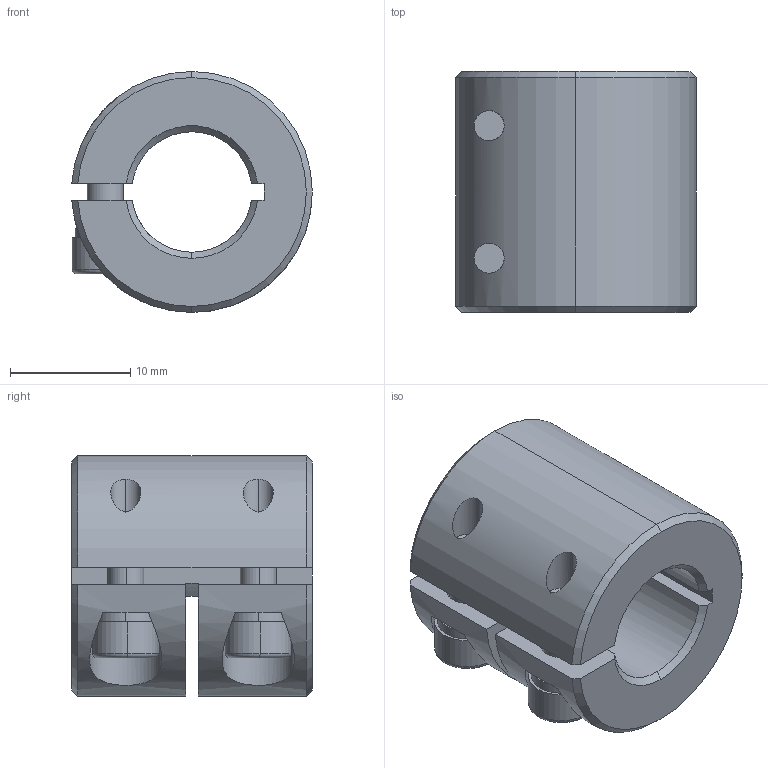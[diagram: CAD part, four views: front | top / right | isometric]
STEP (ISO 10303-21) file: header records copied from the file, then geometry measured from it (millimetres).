
FILE_DESCRIPTION (( 'STEP AP203' ), '1' );
FILE_NAME ('LL-B-D20L20-10-10.STEP', '2021-11-03T05:31:37', ( '' ), ( '' ), 'SwSTEP 2.0', 'SolidWorks 2018', '' );
FILE_SCHEMA (( 'CONFIG_CONTROL_DESIGN' ));
Length unit declared in the file: millimetre
Products named in the file (1): LL-B-D20L20-10-10
Bounding box: 19.98 x 20 x 20 mm (x, y, z)
Volume: 4344.2 mm3; surface area: 3068 mm2
Topology: 1 solids, 1 shells, 110 faces, 283 edges, 177 vertices
Faces by surface type: plane 51, cylinder 39, cone 16, torus 4
Entity records: 3593 total; most frequent: CARTESIAN_POINT 801, DIRECTION 594, ORIENTED_EDGE 558, EDGE_CURVE 279, AXIS2_PLACEMENT_3D 230, VERTEX_POINT 177, VECTOR 134, LINE 134
